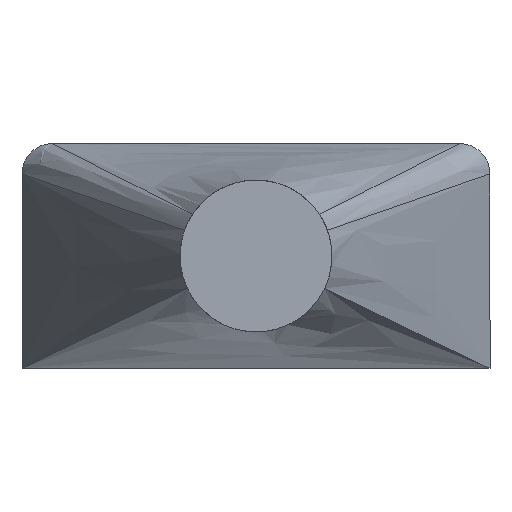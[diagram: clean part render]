
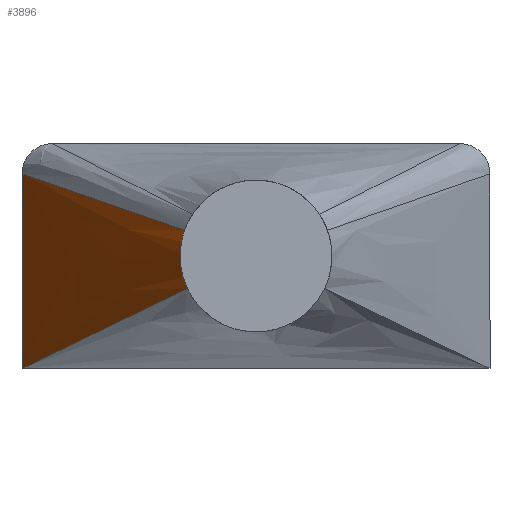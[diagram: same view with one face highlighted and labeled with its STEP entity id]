
A CAD part, front view. The second image highlights one B-rep face of the part: STEP entity #3896.
In plain terms, the highlighted free-form (B-spline) face has degree [3, 3] with [7, 4] control points.
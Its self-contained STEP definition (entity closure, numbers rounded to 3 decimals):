
#24=B_SPLINE_SURFACE_WITH_KNOTS('',3,3,((#6394,#6395,#6396,#6397),(#6398,
#6399,#6400,#6401),(#6402,#6403,#6404,#6405),(#6406,#6407,#6408,#6409),
(#6410,#6411,#6412,#6413),(#6414,#6415,#6416,#6417),(#6418,#6419,#6420,
#6421)),.UNSPECIFIED.,.F.,.F.,.F.,(4,1,1,1,4),(4,4),(0.,0.286,
0.571,0.786,1.),(0.,1.),.UNSPECIFIED.);
#375=FACE_OUTER_BOUND('',#580,.T.);
#580=EDGE_LOOP('',(#3691,#3692,#3693,#3694));
#1067=LINE('',#6244,#1564);
#1073=LINE('',#6281,#1570);
#1077=LINE('',#6393,#1574);
#1564=VECTOR('',#5138,10.);
#1570=VECTOR('',#5148,11.684);
#1574=VECTOR('',#5152,11.491);
#1630=CIRCLE('',#4166,2.5);
#1991=VERTEX_POINT('',#6201);
#1992=VERTEX_POINT('',#6203);
#2005=VERTEX_POINT('',#6237);
#2007=VERTEX_POINT('',#6243);
#2541=EDGE_CURVE('',#1991,#1992,#1630,.T.);
#2560=EDGE_CURVE('',#2005,#2007,#1067,.T.);
#2566=EDGE_CURVE('',#2007,#1992,#1073,.T.);
#2570=EDGE_CURVE('',#2005,#1991,#1077,.T.);
#3691=ORIENTED_EDGE('',*,*,#2560,.T.);
#3692=ORIENTED_EDGE('',*,*,#2566,.T.);
#3693=ORIENTED_EDGE('',*,*,#2541,.F.);
#3694=ORIENTED_EDGE('',*,*,#2570,.F.);
#3896=ADVANCED_FACE('',(#375),#24,.T.);
#4166=AXIS2_PLACEMENT_3D('',#6204,#5097,#5098);
#5097=DIRECTION('center_axis',(0.,0.,1.));
#5098=DIRECTION('ref_axis',(-1.,0.,0.));
#5138=DIRECTION('',(0.,-1.,0.));
#5148=DIRECTION('',(0.465,0.225,0.856));
#5152=DIRECTION('',(0.465,-0.161,0.87));
#6201=CARTESIAN_POINT('',(-2.352,0.847,10.));
#6203=CARTESIAN_POINT('',(-2.262,-1.066,10.));
#6204=CARTESIAN_POINT('Origin',(0.,0.,10.));
#6237=CARTESIAN_POINT('',(-7.7,2.7,0.));
#6243=CARTESIAN_POINT('',(-7.7,-3.7,0.));
#6244=CARTESIAN_POINT('',(-7.7,2.7,0.));
#6281=CARTESIAN_POINT('',(-7.7,-3.7,0.));
#6393=CARTESIAN_POINT('',(-7.7,2.7,0.));
#6394=CARTESIAN_POINT('Ctrl Pts',(-7.7,2.7,0.));
#6395=CARTESIAN_POINT('Ctrl Pts',(-5.917,2.082,3.333));
#6396=CARTESIAN_POINT('Ctrl Pts',(-4.135,1.465,6.667));
#6397=CARTESIAN_POINT('Ctrl Pts',(-2.352,0.847,10.));
#6398=CARTESIAN_POINT('Ctrl Pts',(-7.7,2.55,0.));
#6399=CARTESIAN_POINT('Ctrl Pts',(-5.923,1.965,3.333));
#6400=CARTESIAN_POINT('Ctrl Pts',(-4.148,1.38,6.667));
#6401=CARTESIAN_POINT('Ctrl Pts',(-2.371,0.795,10.));
#6402=CARTESIAN_POINT('Ctrl Pts',(-7.7,1.726,0.));
#6403=CARTESIAN_POINT('Ctrl Pts',(-5.953,1.333,3.333));
#6404=CARTESIAN_POINT('Ctrl Pts',(-4.207,0.941,6.667));
#6405=CARTESIAN_POINT('Ctrl Pts',(-2.46,0.548,10.));
#6406=CARTESIAN_POINT('Ctrl Pts',(-7.7,-0.235,0.));
#6407=CARTESIAN_POINT('Ctrl Pts',(-5.975,-0.173,
3.333));
#6408=CARTESIAN_POINT('Ctrl Pts',(-4.251,-0.111,6.667));
#6409=CARTESIAN_POINT('Ctrl Pts',(-2.526,-0.049,
10.));
#6410=CARTESIAN_POINT('Ctrl Pts',(-7.7,-2.181,0.));
#6411=CARTESIAN_POINT('Ctrl Pts',(-5.945,-1.666,3.333));
#6412=CARTESIAN_POINT('Ctrl Pts',(-4.191,-1.15,6.667));
#6413=CARTESIAN_POINT('Ctrl Pts',(-2.436,-0.635,
10.));
#6414=CARTESIAN_POINT('Ctrl Pts',(-7.7,-3.243,0.));
#6415=CARTESIAN_POINT('Ctrl Pts',(-5.907,-2.475,3.333));
#6416=CARTESIAN_POINT('Ctrl Pts',(-4.114,-1.707,6.667));
#6417=CARTESIAN_POINT('Ctrl Pts',(-2.321,-0.939,10.));
#6418=CARTESIAN_POINT('Ctrl Pts',(-7.7,-3.7,0.));
#6419=CARTESIAN_POINT('Ctrl Pts',(-5.887,-2.822,3.333));
#6420=CARTESIAN_POINT('Ctrl Pts',(-4.074,-1.944,6.667));
#6421=CARTESIAN_POINT('Ctrl Pts',(-2.262,-1.066,10.));
